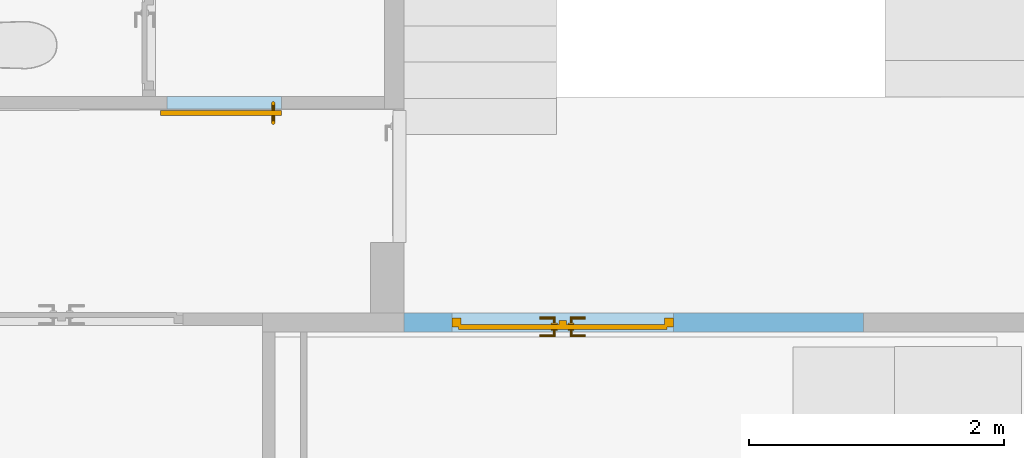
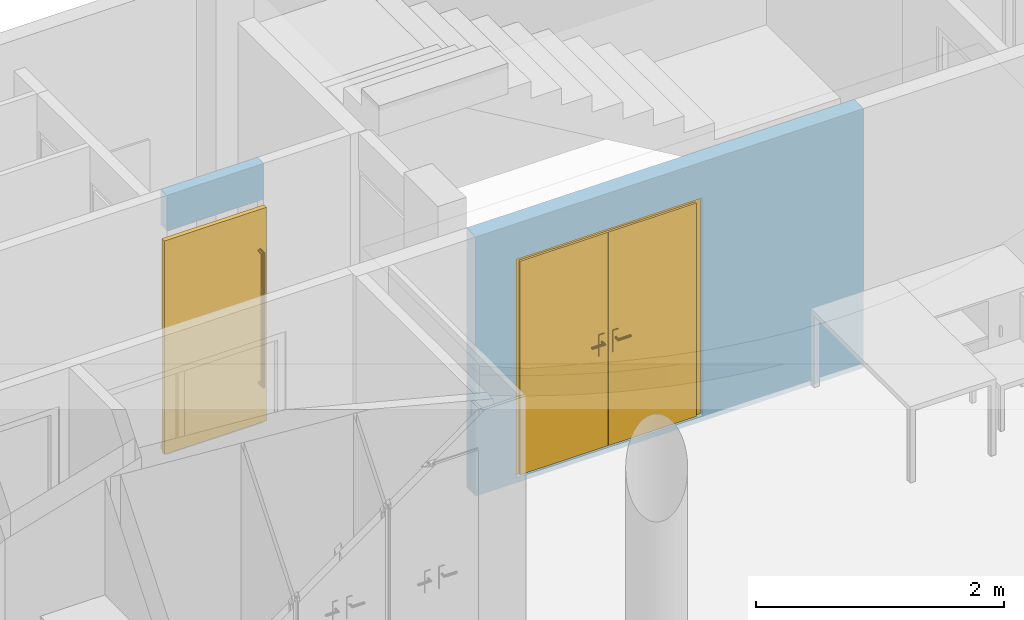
"""IFC4 building model written with IfcOpenShell, lengths in metres."""

from ifc_helpers import new_model, entity, si_unit, converted_unit, derived_unit, frame, frame_2d, origin, origin_with_axes, place, context, subcontext, project, spatial, polyline, rectangle, outline, extrude, faceted_brep, source, transform, mapped, material, layer, layer_set, layer_usage, element, fill, save


model = new_model("IFC4")

# Units and contexts
model_context = context("Model", 3, precision=1e-05, world=origin())
body_context = subcontext(model_context, "Body", "Model", "MODEL_VIEW")
ifc_project = project(units=[si_unit("LENGTHUNIT", "METRE"), si_unit("AREAUNIT", "SQUARE_METRE"), si_unit("VOLUMEUNIT", "CUBIC_METRE"), si_unit("MASSUNIT", "GRAM", prefix="KILO"), converted_unit("PLANEANGLEUNIT", "DEGREE", entity("IfcPlaneAngleMeasure", 0.0174532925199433), si_unit("PLANEANGLEUNIT", "RADIAN"), dimensions=[0, 0, 0, 0, 0, 0, 0]), derived_unit("THERMALTRANSMITTANCEUNIT", [(si_unit("POWERUNIT", "WATT"), 1), (si_unit("THERMODYNAMICTEMPERATUREUNIT", "KELVIN"), -1), (si_unit("LENGTHUNIT", "METRE"), -2)]), derived_unit("VOLUMETRICFLOWRATEUNIT", [(si_unit("LENGTHUNIT", "METRE"), 3), (converted_unit("TIMEUNIT", "hour", entity("IfcTimeMeasure", 3600.0), si_unit("TIMEUNIT", "SECOND"), dimensions=[0, 0, 1, 0, 0, 0, 0]), -1), (si_unit("LENGTHUNIT", "METRE"), -1)])], contexts=[model_context])

# Building, storeys
building_placement = place(None, origin())
building = spatial("IfcBuilding", under=ifc_project, at=building_placement, Name="HABITATGE PLURIFAMILIAR", CompositionType="ELEMENT")
storey_1_placement = place(building_placement, frame((0.0, 0.0, 3.35)))
storey_1 = spatial("IfcBuildingStorey", under=building, at=storey_1_placement, Name="PLANTA  ALTELL", CompositionType="ELEMENT", Elevation=3.35)
storey_2_placement = place(storey_1_placement, origin())
storey_2 = spatial("IfcBuildingStorey", under=storey_1, at=storey_2_placement, Name="NOU", CompositionType="PARTIAL")

# Wall, opening, door
ifc_material_1 = material()
ifc_layer_1 = layer(ifc_material_1, 0.15)
ifc_layer_set_1 = layer_set([ifc_layer_1])
ifc_layer_usage_1 = layer_usage(ifc_layer_set_1, "AXIS2", "POSITIVE", 0.0)
wall_1_placement = place(storey_2_placement, frame((414.436931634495, 24.3495914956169, -0.05), z_axis=(0.0, 0.0, 1.0), x_axis=(-1.0, 0.0, 0.0)))
wall_1 = element("IfcWall", 1, at=wall_1_placement, inside=storey_2, material=ifc_layer_usage_1, Name="Evans PA", context=body_context, shape_type="SweptSolid", body=[
    extrude(rectangle(XDim=3.60696944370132, YDim=0.15, at=frame_2d((1.80348472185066, 0.075), x_axis=(1.0, 0.0))), origin_with_axes(), (0.0, 0.0, 1.0), 2.55),
])
opening_1_placement = place(wall_1_placement, frame((3.23186417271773, 0.15, 0.05), z_axis=(0.0, -1.0, 0.0), x_axis=(0.0, 0.0, 1.0)))
opening_1 = element("IfcOpeningElement", 2, at=opening_1_placement, cuts=wall_1, Name="Vano de puerta PA", ObjectType="Opening", context=body_context, shape_type="SweptSolid", body=[
    extrude(outline(polyline([(2.15, 1.74), (2.15, 0.0), (0.0, 0.0), (0.0, 1.74), (2.15, 1.74)])), origin_with_axes(), (0.0, 0.0, 1.0), 0.15),
])
shared_shape_1 = source(origin_with_axes(), body_context, "Body", "Brep", [
    faceted_brep([(1.74, 0.07, 2.15), (1.67, 0.07, 2.15), (1.67, 0.07, 0.0), (1.74, 0.07, 0.0), (1.74, 0.0, 0.0), (1.67, 0.0, 0.0), (1.67, 0.0, 2.15), (1.74, 0.0, 2.15)], [[[0, 1, 2, 3]], [[4, 5, 6, 7]], [[3, 4, 7, 0]], [[2, 5, 4, 3]], [[1, 6, 5, 2]], [[0, 7, 6, 1]]], orient=[[False], [False], [False], [False], [False], [False]]),
    faceted_brep([(0.07, 0.07, 2.15), (0.0, 0.07, 2.15), (0.0, 0.07, 0.0), (0.07, 0.07, 0.0), (0.07, 0.0, 0.0), (0.0, 0.0, 0.0), (0.0, 0.0, 2.15), (0.07, 0.0, 2.15)], [[[0, 1, 2, 3]], [[4, 5, 6, 7]], [[3, 4, 7, 0]], [[2, 5, 4, 3]], [[1, 6, 5, 2]], [[0, 7, 6, 1]]], orient=[[False], [False], [False], [False], [False], [False]]),
    faceted_brep([(1.67, 0.07, 2.15), (0.07, 0.07, 2.15), (0.07, 0.07, 2.08), (1.67, 0.07, 2.08), (1.67, 0.0, 2.08), (0.07, 0.0, 2.08), (0.07, 0.0, 2.15), (1.67, 0.0, 2.15)], [[[0, 1, 2, 3]], [[4, 5, 6, 7]], [[3, 4, 7, 0]], [[2, 5, 4, 3]], [[1, 6, 5, 2]], [[0, 7, 6, 1]]], orient=[[False], [False], [False], [False], [False], [False]]),
    faceted_brep([(1.69, 0.09, 2.1), (0.8705, 0.09, 2.1), (0.8705, 0.09, 0.0), (1.69, 0.09, 0.0), (1.69, 0.05, 0.0), (0.8705, 0.05, 0.0), (0.8705, 0.05, 2.1), (1.69, 0.05, 2.1)], [[[0, 1, 2, 3]], [[4, 5, 6, 7]], [[3, 4, 7, 0]], [[2, 5, 4, 3]], [[1, 6, 5, 2]], [[0, 7, 6, 1]]], orient=[[False], [False], [False], [False], [False], [False]]),
    faceted_brep([(0.9005, 0.05, 2.08), (0.8405, 0.05, 2.08), (0.8405, 0.05, 0.0), (0.9005, 0.05, 0.0), (0.9005, 0.02, 0.0), (0.8405, 0.02, 0.0), (0.8405, 0.02, 2.08), (0.9005, 0.02, 2.08)], [[[0, 1, 2, 3]], [[4, 5, 6, 7]], [[3, 4, 7, 0]], [[2, 5, 4, 3]], [[1, 6, 5, 2]], [[0, 7, 6, 1]]], orient=[[False], [False], [False], [False], [False], [False]]),
    faceted_brep([(0.9605, 0.05, 1.125), (0.9105, 0.05, 1.125), (0.9105, 0.05, 0.91), (0.9605, 0.05, 0.91), (0.9605, 0.04, 0.91), (0.9105, 0.04, 0.91), (0.9105, 0.04, 1.125), (0.9605, 0.04, 1.125)], [[[0, 1, 2, 3]], [[4, 5, 6, 7]], [[3, 4, 7, 0]], [[2, 5, 4, 3]], [[1, 6, 5, 2]], [[0, 7, 6, 1]]], orient=[[False], [False], [False], [False], [False], [False]]),
    faceted_brep([(0.9355, 0.04, 1.06), (0.9305, 0.04, 1.05866025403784), (0.926839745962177, 0.04, 1.055), (0.9255, 0.04, 1.05), (0.926839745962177, 0.04, 1.045), (0.9305, 0.04, 1.04133974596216), (0.9355, 0.04, 1.04), (0.9405, 0.04, 1.04133974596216), (0.944160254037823, 0.04, 1.045), (0.9455, 0.04, 1.05), (0.944160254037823, 0.04, 1.055), (0.9405, 0.04, 1.05866025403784), (0.9355, 0.0, 1.06), (0.9305, -0.005, 1.05866025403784), (0.926839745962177, -0.00866025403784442, 1.055), (0.9255, -0.01, 1.05), (0.926839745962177, -0.00866025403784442, 1.045), (0.9305, -0.005, 1.04133974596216), (0.9355, 0.0, 1.04), (0.9405, 0.005, 1.04133974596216), (0.944160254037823, 0.00866025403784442, 1.045), (0.9455, 0.01, 1.05), (0.944160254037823, 0.00866025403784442, 1.055), (0.9405, 0.005, 1.05866025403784), (1.0505, 0.0, 1.06), (1.0505, 0.005, 1.05866025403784), (1.0505, 0.00866025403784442, 1.055), (1.0505, 0.01, 1.05), (1.0505, 0.00866025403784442, 1.045), (1.0505, 0.005, 1.04133974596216), (1.0505, 0.0, 1.04), (1.0505, -0.005, 1.04133974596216), (1.0505, -0.00866025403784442, 1.045), (1.0505, -0.01, 1.05), (1.0505, -0.00866025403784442, 1.055), (1.0505, -0.005, 1.05866025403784)], [[[0, 1, 2, 3, 4, 5, 6, 7, 8, 9, 10, 11]], [[0, 12, 13, 1]], [[1, 13, 14, 2]], [[2, 14, 15, 3]], [[3, 15, 16, 4]], [[4, 16, 17, 5]], [[5, 17, 18, 6]], [[6, 18, 19, 7]], [[7, 19, 20, 8]], [[8, 20, 21, 9]], [[9, 21, 22, 10]], [[10, 22, 23, 11]], [[11, 23, 12, 0]], [[24, 25, 26, 27, 28, 29, 30, 31, 32, 33, 34, 35]], [[12, 24, 35, 13]], [[13, 35, 34, 14]], [[14, 34, 33, 15]], [[15, 33, 32, 16]], [[16, 32, 31, 17]], [[17, 31, 30, 18]], [[18, 30, 29, 19]], [[19, 29, 28, 20]], [[20, 28, 27, 21]], [[21, 27, 26, 22]], [[22, 26, 25, 23]], [[23, 25, 24, 12]]], orient=[[False], [False], [False], [False], [False], [False], [False], [False], [False], [False], [False], [False], [False], [False], [False], [False], [False], [False], [False], [False], [False], [False], [False], [False], [False], [False]]),
    faceted_brep([(0.9605, 0.09, 1.125), (0.9605, 0.09, 0.91), (0.9105, 0.09, 0.91), (0.9105, 0.09, 1.125), (0.9605, 0.1, 0.91), (0.9605, 0.1, 1.125), (0.9105, 0.1, 1.125), (0.9105, 0.1, 0.91)], [[[0, 1, 2, 3]], [[4, 5, 6, 7]], [[1, 0, 5, 4]], [[2, 1, 4, 7]], [[3, 2, 7, 6]], [[0, 3, 6, 5]]], orient=[[False], [False], [False], [False], [False], [False]]),
    faceted_brep([(0.9355, 0.1, 1.06), (0.9405, 0.1, 1.05866025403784), (0.944160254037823, 0.1, 1.055), (0.9455, 0.1, 1.05), (0.944160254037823, 0.1, 1.045), (0.9405, 0.1, 1.04133974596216), (0.9355, 0.1, 1.04), (0.9305, 0.1, 1.04133974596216), (0.926839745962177, 0.1, 1.045), (0.9255, 0.1, 1.05), (0.926839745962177, 0.1, 1.055), (0.9305, 0.1, 1.05866025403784), (0.9305, 0.145, 1.05866025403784), (0.9355, 0.14, 1.06), (0.926839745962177, 0.148660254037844, 1.055), (0.9255, 0.15, 1.05), (0.926839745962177, 0.148660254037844, 1.045), (0.9305, 0.145, 1.04133974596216), (0.9355, 0.14, 1.04), (0.9405, 0.135, 1.04133974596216), (0.944160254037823, 0.131339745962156, 1.045), (0.9455, 0.13, 1.05), (0.944160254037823, 0.131339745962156, 1.055), (0.9405, 0.135, 1.05866025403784), (1.0505, 0.14, 1.06), (1.0505, 0.145, 1.05866025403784), (1.0505, 0.148660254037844, 1.055), (1.0505, 0.15, 1.05), (1.0505, 0.148660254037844, 1.045), (1.0505, 0.145, 1.04133974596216), (1.0505, 0.14, 1.04), (1.0505, 0.135, 1.04133974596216), (1.0505, 0.131339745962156, 1.045), (1.0505, 0.13, 1.05), (1.0505, 0.131339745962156, 1.055), (1.0505, 0.135, 1.05866025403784)], [[[0, 1, 2, 3, 4, 5, 6, 7, 8, 9, 10, 11]], [[0, 11, 12, 13]], [[11, 10, 14, 12]], [[10, 9, 15, 14]], [[9, 8, 16, 15]], [[8, 7, 17, 16]], [[7, 6, 18, 17]], [[6, 5, 19, 18]], [[5, 4, 20, 19]], [[4, 3, 21, 20]], [[3, 2, 22, 21]], [[2, 1, 23, 22]], [[1, 0, 13, 23]], [[24, 25, 26, 27, 28, 29, 30, 31, 32, 33, 34, 35]], [[13, 12, 25, 24]], [[12, 14, 26, 25]], [[14, 15, 27, 26]], [[15, 16, 28, 27]], [[16, 17, 29, 28]], [[17, 18, 30, 29]], [[18, 19, 31, 30]], [[19, 20, 32, 31]], [[20, 21, 33, 32]], [[21, 22, 34, 33]], [[22, 23, 35, 34]], [[23, 13, 24, 35]]], orient=[[False], [False], [False], [False], [False], [False], [False], [False], [False], [False], [False], [False], [False], [False], [False], [False], [False], [False], [False], [False], [False], [False], [False], [False], [False], [False]]),
    faceted_brep([(0.8695, 0.09, 2.1), (0.05, 0.09, 2.1), (0.05, 0.09, 0.0), (0.8695, 0.09, 0.0), (0.8695, 0.05, 0.0), (0.05, 0.05, 0.0), (0.05, 0.05, 2.1), (0.8695, 0.05, 2.1)], [[[0, 1, 2, 3]], [[4, 5, 6, 7]], [[3, 4, 7, 0]], [[2, 5, 4, 3]], [[1, 6, 5, 2]], [[0, 7, 6, 1]]], orient=[[False], [False], [False], [False], [False], [False]]),
    faceted_brep([(0.8295, 0.05, 1.125), (0.7795, 0.05, 1.125), (0.7795, 0.05, 0.91), (0.8295, 0.05, 0.91), (0.8295, 0.04, 0.91), (0.7795, 0.04, 0.91), (0.7795, 0.04, 1.125), (0.8295, 0.04, 1.125)], [[[0, 1, 2, 3]], [[4, 5, 6, 7]], [[3, 4, 7, 0]], [[2, 5, 4, 3]], [[1, 6, 5, 2]], [[0, 7, 6, 1]]], orient=[[False], [False], [False], [False], [False], [False]]),
    faceted_brep([(0.8045, 0.04, 1.06), (0.7995, 0.04, 1.05866025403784), (0.795839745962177, 0.04, 1.055), (0.7945, 0.04, 1.05), (0.795839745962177, 0.04, 1.045), (0.7995, 0.04, 1.04133974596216), (0.8045, 0.04, 1.04), (0.8095, 0.04, 1.04133974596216), (0.813160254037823, 0.04, 1.045), (0.8145, 0.04, 1.05), (0.813160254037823, 0.04, 1.055), (0.8095, 0.04, 1.05866025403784), (0.8095, -0.005, 1.05866025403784), (0.8045, 0.0, 1.06), (0.813160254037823, -0.00866025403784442, 1.055), (0.8145, -0.01, 1.05), (0.813160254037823, -0.00866025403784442, 1.045), (0.8095, -0.005, 1.04133974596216), (0.8045, 0.0, 1.04), (0.7995, 0.005, 1.04133974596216), (0.795839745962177, 0.00866025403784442, 1.045), (0.7945, 0.01, 1.05), (0.795839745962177, 0.00866025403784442, 1.055), (0.7995, 0.005, 1.05866025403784), (0.6895, 0.0, 1.06), (0.6895, -0.005, 1.05866025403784), (0.6895, -0.00866025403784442, 1.055), (0.6895, -0.01, 1.05), (0.6895, -0.00866025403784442, 1.045), (0.6895, -0.005, 1.04133974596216), (0.6895, 0.0, 1.04), (0.6895, 0.005, 1.04133974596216), (0.6895, 0.00866025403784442, 1.045), (0.6895, 0.01, 1.05), (0.6895, 0.00866025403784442, 1.055), (0.6895, 0.005, 1.05866025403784)], [[[0, 1, 2, 3, 4, 5, 6, 7, 8, 9, 10, 11]], [[0, 11, 12, 13]], [[11, 10, 14, 12]], [[10, 9, 15, 14]], [[9, 8, 16, 15]], [[8, 7, 17, 16]], [[7, 6, 18, 17]], [[6, 5, 19, 18]], [[5, 4, 20, 19]], [[4, 3, 21, 20]], [[3, 2, 22, 21]], [[2, 1, 23, 22]], [[1, 0, 13, 23]], [[24, 25, 26, 27, 28, 29, 30, 31, 32, 33, 34, 35]], [[13, 12, 25, 24]], [[12, 14, 26, 25]], [[14, 15, 27, 26]], [[15, 16, 28, 27]], [[16, 17, 29, 28]], [[17, 18, 30, 29]], [[18, 19, 31, 30]], [[19, 20, 32, 31]], [[20, 21, 33, 32]], [[21, 22, 34, 33]], [[22, 23, 35, 34]], [[23, 13, 24, 35]]], orient=[[False], [False], [False], [False], [False], [False], [False], [False], [False], [False], [False], [False], [False], [False], [False], [False], [False], [False], [False], [False], [False], [False], [False], [False], [False], [False]]),
    faceted_brep([(0.8295, 0.09, 1.125), (0.8295, 0.09, 0.91), (0.7795, 0.09, 0.91), (0.7795, 0.09, 1.125), (0.8295, 0.1, 0.91), (0.8295, 0.1, 1.125), (0.7795, 0.1, 1.125), (0.7795, 0.1, 0.91)], [[[0, 1, 2, 3]], [[4, 5, 6, 7]], [[1, 0, 5, 4]], [[2, 1, 4, 7]], [[3, 2, 7, 6]], [[0, 3, 6, 5]]], orient=[[False], [False], [False], [False], [False], [False]]),
    faceted_brep([(0.8045, 0.1, 1.06), (0.8095, 0.1, 1.05866025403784), (0.813160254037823, 0.1, 1.055), (0.8145, 0.1, 1.05), (0.813160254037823, 0.1, 1.045), (0.8095, 0.1, 1.04133974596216), (0.8045, 0.1, 1.04), (0.7995, 0.1, 1.04133974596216), (0.795839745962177, 0.1, 1.045), (0.7945, 0.1, 1.05), (0.795839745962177, 0.1, 1.055), (0.7995, 0.1, 1.05866025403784), (0.8045, 0.14, 1.06), (0.8095, 0.145, 1.05866025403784), (0.813160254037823, 0.148660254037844, 1.055), (0.8145, 0.15, 1.05), (0.813160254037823, 0.148660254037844, 1.045), (0.8095, 0.145, 1.04133974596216), (0.8045, 0.14, 1.04), (0.7995, 0.135, 1.04133974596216), (0.795839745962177, 0.131339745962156, 1.045), (0.7945, 0.13, 1.05), (0.795839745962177, 0.131339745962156, 1.055), (0.7995, 0.135, 1.05866025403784), (0.6895, 0.14, 1.06), (0.6895, 0.135, 1.05866025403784), (0.6895, 0.131339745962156, 1.055), (0.6895, 0.13, 1.05), (0.6895, 0.131339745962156, 1.045), (0.6895, 0.135, 1.04133974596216), (0.6895, 0.14, 1.04), (0.6895, 0.145, 1.04133974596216), (0.6895, 0.148660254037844, 1.045), (0.6895, 0.15, 1.05), (0.6895, 0.148660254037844, 1.055), (0.6895, 0.145, 1.05866025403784)], [[[0, 1, 2, 3, 4, 5, 6, 7, 8, 9, 10, 11]], [[0, 12, 13, 1]], [[1, 13, 14, 2]], [[2, 14, 15, 3]], [[3, 15, 16, 4]], [[4, 16, 17, 5]], [[5, 17, 18, 6]], [[6, 18, 19, 7]], [[7, 19, 20, 8]], [[8, 20, 21, 9]], [[9, 21, 22, 10]], [[10, 22, 23, 11]], [[11, 23, 12, 0]], [[24, 25, 26, 27, 28, 29, 30, 31, 32, 33, 34, 35]], [[12, 24, 35, 13]], [[13, 35, 34, 14]], [[14, 34, 33, 15]], [[15, 33, 32, 16]], [[16, 32, 31, 17]], [[17, 31, 30, 18]], [[18, 30, 29, 19]], [[19, 29, 28, 20]], [[20, 28, 27, 21]], [[21, 27, 26, 22]], [[22, 26, 25, 23]], [[23, 25, 24, 12]]], orient=[[False], [False], [False], [False], [False], [False], [False], [False], [False], [False], [False], [False], [False], [False], [False], [False], [False], [False], [False], [False], [False], [False], [False], [False], [False], [False]]),
])
door_1_placement = place(opening_1_placement, frame((0.0, 1.74, 0.11), z_axis=(1.0, 0.0, 0.0), x_axis=(0.0, -1.0, 0.0)))
door_1 = element("IfcDoor", 3, at=door_1_placement, inside=storey_2, Name="Porta PA", OperationType="USERDEFINED", OverallHeight=2.15, OverallWidth=1.74, PredefinedType="DOOR", context=body_context, shape_type="MappedRepresentation", body=[
    mapped(shared_shape_1, transform((0.0, 0.0, 0.0), x_axis=(1.0, 0.0, 0.0), y_axis=(0.0, 1.0, 0.0), z_axis=(0.0, 0.0, 1.0), scale=1.0)),
])
fill(opening_1, door_1)

# Wall, openings, door
ifc_material_2 = material()
ifc_layer_2 = layer(ifc_material_2, 0.1)
ifc_layer_set_2 = layer_set([ifc_layer_2])
ifc_layer_usage_2 = layer_usage(ifc_layer_set_2, "AXIS2", "POSITIVE", 0.0)
wall_2_placement = place(storey_2_placement, frame((408.967084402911, 25.9491362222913, -0.05)))
wall_2 = element("IfcWall", 4, at=wall_2_placement, inside=storey_2, material=ifc_layer_usage_2, Name="Evans PA", context=body_context, shape_type="SweptSolid", body=[
    extrude(rectangle(XDim=0.9, YDim=0.1, at=frame_2d((0.45, 0.05), x_axis=(1.0, 0.0))), origin_with_axes(), (0.0, 0.0, 1.0), 2.55),
])
opening_2_placement = place(wall_2_placement, frame((0.9, 0.1, 0.05), z_axis=(0.0, -1.0, 0.0), x_axis=(0.0, 0.0, 1.0)))
element("IfcOpeningElement", 5, at=opening_2_placement, cuts=wall_2, Name="Vano de puerta PA", ObjectType="Opening", context=body_context, shape_type="SweptSolid", body=[
    extrude(outline(polyline([(2.15, 0.9), (2.15, 0.0), (0.0, 0.0), (0.0, 0.9), (2.15, 0.9)])), origin_with_axes(), (0.0, 0.0, 1.0), 0.1),
])
opening_3_placement = place(wall_2_placement, frame((0.9, 0.1, 0.05), z_axis=(0.0, -1.0, 0.0), x_axis=(0.0, 0.0, 1.0)))
opening_3 = element("IfcOpeningElement", 6, at=opening_3_placement, cuts=wall_2, Name="Vano de puerta PA", ObjectType="Opening", context=body_context, shape_type="SweptSolid", body=[
    extrude(outline(polyline([(2.1, 0.9), (2.1, 0.0), (0.0, 0.0), (0.0, 0.9), (2.1, 0.9)])), origin_with_axes(), (0.0, 0.0, 1.0), 0.1),
])
shared_shape_2 = source(origin_with_axes(), body_context, "Body", "Brep", [
    faceted_brep([(0.0, 0.15, 2.1), (0.0, 0.15, 0.0), (0.95, 0.15, 0.0), (0.95, 0.15, 2.1), (0.0, 0.11, 0.0), (0.0, 0.11, 2.1), (0.95, 0.11, 2.1), (0.95, 0.11, 0.0)], [[[0, 1, 2, 3]], [[4, 5, 6, 7]], [[1, 0, 5, 4]], [[2, 1, 4, 7]], [[3, 2, 7, 6]], [[0, 3, 6, 5]]], orient=[[False], [False], [False], [False], [False], [False]]),
    faceted_brep([(0.08, 0.11, 1.7), (0.0779903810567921, 0.11, 1.7075), (0.0725, 0.11, 1.71299038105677), (0.065, 0.11, 1.715), (0.0575, 0.11, 1.71299038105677), (0.0520096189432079, 0.11, 1.7075), (0.05, 0.11, 1.7), (0.0520096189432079, 0.11, 1.6925), (0.0575, 0.11, 1.68700961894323), (0.065, 0.11, 1.685), (0.0725, 0.11, 1.68700961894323), (0.0779903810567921, 0.11, 1.6925), (0.08, 0.055, 1.7), (0.0779903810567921, 0.0475, 1.7075), (0.0725, 0.0420096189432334, 1.71299038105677), (0.065, 0.04, 1.715), (0.0575, 0.0420096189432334, 1.71299038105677), (0.0520096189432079, 0.0475, 1.7075), (0.05, 0.055, 1.7), (0.0520096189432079, 0.0625, 1.6925), (0.0575, 0.0679903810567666, 1.68700961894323), (0.065, 0.07, 1.685), (0.0725, 0.0679903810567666, 1.68700961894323), (0.0779903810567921, 0.0625, 1.6925), (0.08, 0.055, 0.4), (0.0779903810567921, 0.0475, 0.3925), (0.0725, 0.0420096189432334, 0.387009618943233), (0.065, 0.04, 0.385), (0.0575, 0.0420096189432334, 0.387009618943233), (0.0520096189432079, 0.0475, 0.3925), (0.05, 0.055, 0.4), (0.0520096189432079, 0.0625, 0.4075), (0.0575, 0.0679903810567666, 0.412990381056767), (0.065, 0.07, 0.415), (0.0725, 0.0679903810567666, 0.412990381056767), (0.0779903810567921, 0.0625, 0.4075), (0.08, 0.11, 0.4), (0.0779903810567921, 0.11, 0.4075), (0.0725, 0.11, 0.412990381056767), (0.065, 0.11, 0.415), (0.0575, 0.11, 0.412990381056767), (0.0520096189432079, 0.11, 0.4075), (0.05, 0.11, 0.4), (0.0520096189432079, 0.11, 0.3925), (0.0575, 0.11, 0.387009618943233), (0.065, 0.11, 0.385), (0.0725, 0.11, 0.387009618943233), (0.0779903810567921, 0.11, 0.3925)], [[[0, 1, 2, 3, 4, 5, 6, 7, 8, 9, 10, 11]], [[0, 12, 13, 1]], [[1, 13, 14, 2]], [[2, 14, 15, 3]], [[3, 15, 16, 4]], [[4, 16, 17, 5]], [[5, 17, 18, 6]], [[6, 18, 19, 7]], [[7, 19, 20, 8]], [[8, 20, 21, 9]], [[9, 21, 22, 10]], [[10, 22, 23, 11]], [[11, 23, 12, 0]], [[12, 24, 25, 13]], [[13, 25, 26, 14]], [[14, 26, 27, 15]], [[15, 27, 28, 16]], [[16, 28, 29, 17]], [[17, 29, 30, 18]], [[18, 30, 31, 19]], [[19, 31, 32, 20]], [[20, 32, 33, 21]], [[21, 33, 34, 22]], [[22, 34, 35, 23]], [[23, 35, 24, 12]], [[36, 37, 38, 39, 40, 41, 42, 43, 44, 45, 46, 47]], [[24, 36, 47, 25]], [[25, 47, 46, 26]], [[26, 46, 45, 27]], [[27, 45, 44, 28]], [[28, 44, 43, 29]], [[29, 43, 42, 30]], [[30, 42, 41, 31]], [[31, 41, 40, 32]], [[32, 40, 39, 33]], [[33, 39, 38, 34]], [[34, 38, 37, 35]], [[35, 37, 36, 24]]], orient=[[False], [False], [False], [False], [False], [False], [False], [False], [False], [False], [False], [False], [False], [False], [False], [False], [False], [False], [False], [False], [False], [False], [False], [False], [False], [False], [False], [False], [False], [False], [False], [False], [False], [False], [False], [False], [False], [False]]),
    faceted_brep([(0.08, 0.15, 1.7), (0.0779903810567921, 0.15, 1.6925), (0.0725, 0.15, 1.68700961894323), (0.065, 0.15, 1.685), (0.0575, 0.15, 1.68700961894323), (0.0520096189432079, 0.15, 1.6925), (0.05, 0.15, 1.7), (0.0520096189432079, 0.15, 1.7075), (0.0575, 0.15, 1.71299038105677), (0.065, 0.15, 1.715), (0.0725, 0.15, 1.71299038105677), (0.0779903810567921, 0.15, 1.7075), (0.0779903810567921, 0.2125, 1.7075), (0.08, 0.205, 1.7), (0.0725, 0.217990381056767, 1.71299038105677), (0.065, 0.22, 1.715), (0.0575, 0.217990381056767, 1.71299038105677), (0.0520096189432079, 0.2125, 1.7075), (0.05, 0.205, 1.7), (0.0520096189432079, 0.1975, 1.6925), (0.0575, 0.192009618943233, 1.68700961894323), (0.065, 0.19, 1.685), (0.0725, 0.192009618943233, 1.68700961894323), (0.0779903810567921, 0.1975, 1.6925), (0.0779903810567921, 0.2125, 0.3925), (0.08, 0.205, 0.4), (0.0725, 0.217990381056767, 0.387009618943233), (0.065, 0.22, 0.385), (0.0575, 0.217990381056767, 0.387009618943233), (0.0520096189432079, 0.2125, 0.3925), (0.05, 0.205, 0.4), (0.0520096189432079, 0.1975, 0.4075), (0.0575, 0.192009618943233, 0.412990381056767), (0.065, 0.19, 0.415), (0.0725, 0.192009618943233, 0.412990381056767), (0.0779903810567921, 0.1975, 0.4075), (0.08, 0.15, 0.4), (0.0779903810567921, 0.15, 0.3925), (0.0725, 0.15, 0.387009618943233), (0.065, 0.15, 0.385), (0.0575, 0.15, 0.387009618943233), (0.0520096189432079, 0.15, 0.3925), (0.05, 0.15, 0.4), (0.0520096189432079, 0.15, 0.4075), (0.0575, 0.15, 0.412990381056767), (0.065, 0.15, 0.415), (0.0725, 0.15, 0.412990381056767), (0.0779903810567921, 0.15, 0.4075)], [[[0, 1, 2, 3, 4, 5, 6, 7, 8, 9, 10, 11]], [[0, 11, 12, 13]], [[11, 10, 14, 12]], [[10, 9, 15, 14]], [[9, 8, 16, 15]], [[8, 7, 17, 16]], [[7, 6, 18, 17]], [[6, 5, 19, 18]], [[5, 4, 20, 19]], [[4, 3, 21, 20]], [[3, 2, 22, 21]], [[2, 1, 23, 22]], [[1, 0, 13, 23]], [[13, 12, 24, 25]], [[12, 14, 26, 24]], [[14, 15, 27, 26]], [[15, 16, 28, 27]], [[16, 17, 29, 28]], [[17, 18, 30, 29]], [[18, 19, 31, 30]], [[19, 20, 32, 31]], [[20, 21, 33, 32]], [[21, 22, 34, 33]], [[22, 23, 35, 34]], [[23, 13, 25, 35]], [[36, 37, 38, 39, 40, 41, 42, 43, 44, 45, 46, 47]], [[25, 24, 37, 36]], [[24, 26, 38, 37]], [[26, 27, 39, 38]], [[27, 28, 40, 39]], [[28, 29, 41, 40]], [[29, 30, 42, 41]], [[30, 31, 43, 42]], [[31, 32, 44, 43]], [[32, 33, 45, 44]], [[33, 34, 46, 45]], [[34, 35, 47, 46]], [[35, 25, 36, 47]]], orient=[[False], [False], [False], [False], [False], [False], [False], [False], [False], [False], [False], [False], [False], [False], [False], [False], [False], [False], [False], [False], [False], [False], [False], [False], [False], [False], [False], [False], [False], [False], [False], [False], [False], [False], [False], [False], [False], [False]]),
])
door_2_placement = place(opening_3_placement, frame((0.0, 0.0, 0.0), z_axis=(1.0, 0.0, 0.0), x_axis=(0.0, 1.0, 0.0)))
door_2 = element("IfcDoor", 7, at=door_2_placement, inside=storey_2, Name="Porta PA", OperationType="USERDEFINED", OverallHeight=2.1, OverallWidth=0.9, PredefinedType="DOOR", context=body_context, shape_type="MappedRepresentation", body=[
    mapped(shared_shape_2, transform((0.0, 0.0, 0.0), x_axis=(1.0, 0.0, 0.0), y_axis=(0.0, 1.0, 0.0), z_axis=(0.0, 0.0, 1.0), scale=1.0)),
])
fill(opening_3, door_2)

save(model, "model.ifc")
